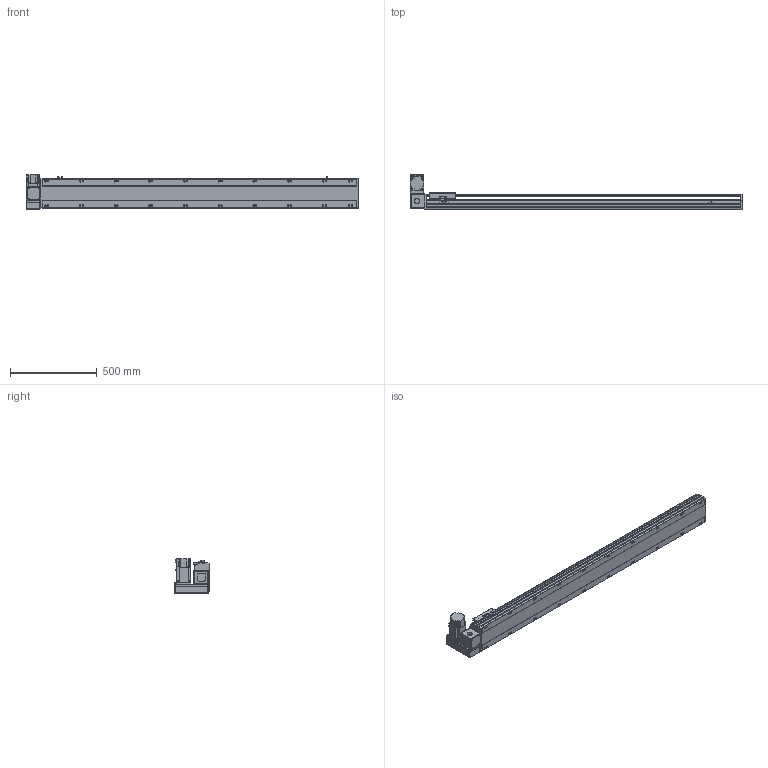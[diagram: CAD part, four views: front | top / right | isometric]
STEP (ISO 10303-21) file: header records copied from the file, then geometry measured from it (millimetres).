
FILE_DESCRIPTION(/* description */ ('STEP AP214'),/* implementation_level */ '2;1');
FILE_NAME(/* name */ 'PBS170-P40-S1550-LU-T75-C1-N(0)',/* time_stamp */ '2022-06-07T10:16:17+02:00',/* author */ ('License CC BY-ND 4.0'),/* organization */ ('CADENAS'),/* preprocessor_version */ 'ST-DEVELOPER v18.102',/* originating_system */ 'PARTsolutions',/* authorisation */ ' ');
FILE_SCHEMA (('AUTOMOTIVE_DESIGN {1 0 10303 214 3 1 1}'));
Length unit declared in the file: millimetre
Products named in the file (7): PBS170-P40-S1550-LU-T75-C1-N(0); PBS170_sensor; PBS170_plant; PBS170_sliser; T75-p1; PBS170T-LU_motors; PBS170-S1550()_body
Assembly tree (8 placements, depth 2):
  PBS170-P40-S1550-LU-T75-C1-N(0)
    PBS170_sensor  x3
    PBS170_plant
    PBS170_sliser
    T75-p1
    PBS170T-LU_motors
    PBS170-S1550()_body
Bounding box: 1913 x 206 x 197.3 mm (x, y, z)
Volume: 14909918.8 mm3; surface area: 1912760.8 mm2
Topology: 8 solids, 8 shells, 1114 faces, 2955 edges, 1926 vertices
Faces by surface type: plane 699, cylinder 355, cone 50, sphere 8, torus 2
Full cylindrical faces by diameter (mm): 3.242 x4, 4 x2, 4.4 x4, 4.5 x6, 4.917 x4, 6 x9, 6.647 x28, 7 x2, 7.5 x4, 8 x8, 8.5 x20, 10 x4, 10.5 x20, 11 x2, 30 x2, 40 x1, 70 x1
Entity records: 32034 total; most frequent: CARTESIAN_POINT 5937, DIRECTION 5440, ORIENTED_EDGE 5148, EDGE_CURVE 2574, AXIS2_PLACEMENT_3D 1897, VERTEX_POINT 1778, LINE 1646, VECTOR 1646
